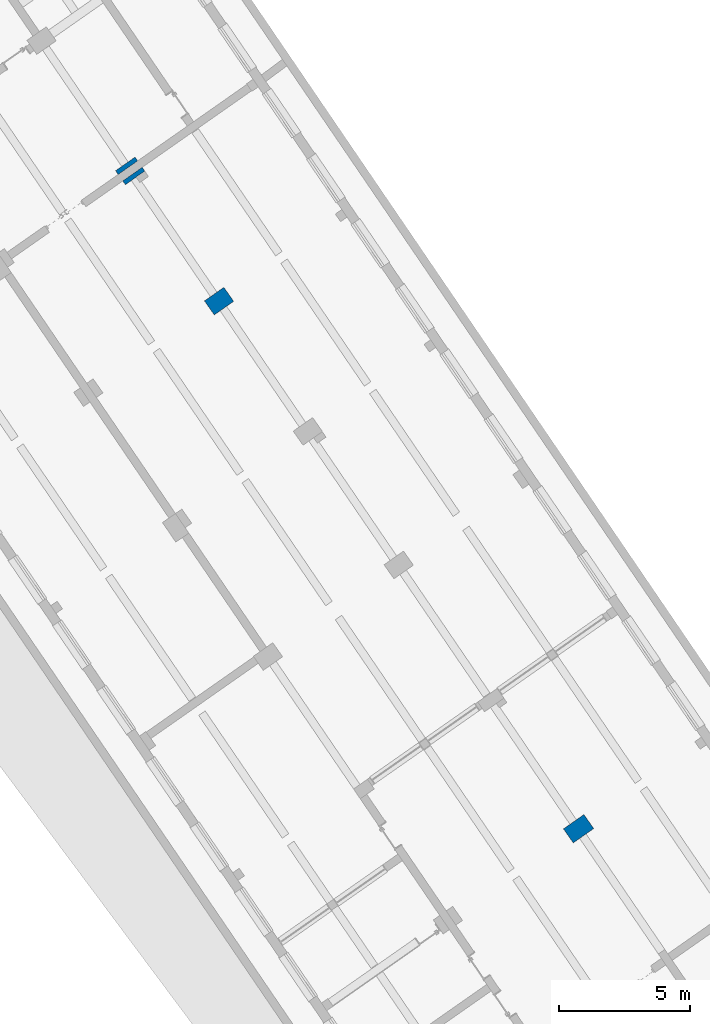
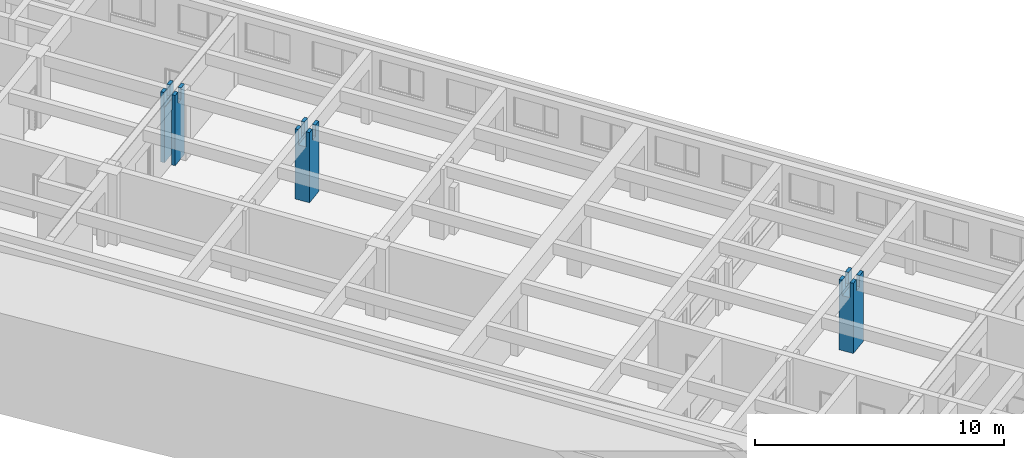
# One storey, part 87 of 112: 3 columns.
"""IFC2X3 building model written with IfcOpenShell, lengths in millimetres."""

from ifc_helpers import new_model, entity, si_unit, converted_unit, derived_unit, direction, frame, origin, place, context, subcontext, project, spatial, faceted_brep, source, transform, mapped, material, type_object, type_shapes, element, save


model = new_model("IFC2X3")

# Units and contexts
model_context = context("Model", 3, precision=0.01, world=origin(), true_north=direction((6.123031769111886e-17, 1.0)))
body_context = subcontext(model_context, "Body", "Model", "MODEL_VIEW")
ifc_project = project(units=[si_unit("LENGTHUNIT", "METRE", prefix="MILLI"), si_unit("AREAUNIT", "SQUARE_METRE"), si_unit("VOLUMEUNIT", "CUBIC_METRE"), converted_unit("PLANEANGLEUNIT", "DEGREE", entity("IfcRatioMeasure", 0.017453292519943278), si_unit("PLANEANGLEUNIT", "RADIAN"), dimensions=[0, 0, 0, 0, 0, 0, 0]), si_unit("MASSUNIT", "GRAM", prefix="KILO"), derived_unit("MASSDENSITYUNIT", [(si_unit("MASSUNIT", "GRAM", prefix="KILO"), 1), (si_unit("LENGTHUNIT", "METRE"), -3)]), derived_unit("MOMENTOFINERTIAUNIT", [(si_unit("LENGTHUNIT", "METRE"), 4)]), si_unit("TIMEUNIT", "SECOND"), si_unit("FREQUENCYUNIT", "HERTZ"), si_unit("THERMODYNAMICTEMPERATUREUNIT", "DEGREE_CELSIUS"), derived_unit("THERMALTRANSMITTANCEUNIT", [(si_unit("MASSUNIT", "GRAM", prefix="KILO"), 1), (si_unit("THERMODYNAMICTEMPERATUREUNIT", "KELVIN"), -1), (si_unit("TIMEUNIT", "SECOND"), -3)]), derived_unit("THERMALCONDUCTANCEUNIT", [(si_unit("MASSUNIT", "GRAM", prefix="KILO"), 1), (si_unit("LENGTHUNIT", "METRE"), 1), (si_unit("THERMODYNAMICTEMPERATUREUNIT", "KELVIN"), -1), (si_unit("TIMEUNIT", "SECOND"), -3)]), derived_unit("VOLUMETRICFLOWRATEUNIT", [(si_unit("LENGTHUNIT", "METRE"), 3), (si_unit("TIMEUNIT", "SECOND"), -1)]), derived_unit("MASSFLOWRATEUNIT", [(si_unit("MASSUNIT", "GRAM", prefix="KILO"), 1), (si_unit("TIMEUNIT", "SECOND"), -1)]), derived_unit("ROTATIONALFREQUENCYUNIT", [(si_unit("TIMEUNIT", "SECOND"), -1)]), si_unit("ELECTRICCURRENTUNIT", "AMPERE"), si_unit("ELECTRICVOLTAGEUNIT", "VOLT"), si_unit("POWERUNIT", "WATT"), converted_unit("FORCEUNIT", "KIP", entity("IfcRatioMeasure", 2.088543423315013e-05), si_unit("FORCEUNIT", "NEWTON"), dimensions=[1, 1, -2, 0, 0, 0, 0]), si_unit("ILLUMINANCEUNIT", "LUX"), si_unit("LUMINOUSFLUXUNIT", "LUMEN"), si_unit("LUMINOUSINTENSITYUNIT", "CANDELA"), derived_unit("USERDEFINED", [(si_unit("MASSUNIT", "GRAM", prefix="KILO"), -1), (si_unit("LENGTHUNIT", "METRE"), -2), (si_unit("TIMEUNIT", "SECOND"), 3), (si_unit("LUMINOUSFLUXUNIT", "LUMEN"), 1)]), derived_unit("USERDEFINED", [(si_unit("MASSUNIT", "GRAM", prefix="KILO"), 1), (si_unit("LENGTHUNIT", "METRE"), 3), (si_unit("TIMEUNIT", "SECOND"), -3), (si_unit("ELECTRICCURRENTUNIT", "AMPERE"), -2)]), derived_unit("USERDEFINED", [(si_unit("LENGTHUNIT", "METRE"), 2), (si_unit("TIMEUNIT", "SECOND"), -2)]), derived_unit("SOUNDPOWERUNIT", [(si_unit("MASSUNIT", "GRAM", prefix="KILO"), 1), (si_unit("LENGTHUNIT", "METRE"), 2), (si_unit("TIMEUNIT", "SECOND"), -3)]), derived_unit("SOUNDPRESSUREUNIT", [(si_unit("MASSUNIT", "GRAM", prefix="KILO"), 1), (si_unit("LENGTHUNIT", "METRE"), -1), (si_unit("TIMEUNIT", "SECOND"), -2)]), derived_unit("LINEARVELOCITYUNIT", [(si_unit("LENGTHUNIT", "METRE"), 1), (si_unit("TIMEUNIT", "SECOND"), -1)]), si_unit("PRESSUREUNIT", "PASCAL"), derived_unit("USERDEFINED", [(si_unit("LENGTHUNIT", "METRE"), -2), (si_unit("MASSUNIT", "GRAM", prefix="KILO"), 1), (si_unit("TIMEUNIT", "SECOND"), -2)]), derived_unit("LINEARFORCEUNIT", [(si_unit("MASSUNIT", "GRAM", prefix="KILO"), 1), (si_unit("LENGTHUNIT", "METRE"), 1), (si_unit("TIMEUNIT", "SECOND"), -2), (si_unit("LENGTHUNIT", "METRE"), -1)]), derived_unit("PLANARFORCEUNIT", [(si_unit("MASSUNIT", "GRAM", prefix="KILO"), 1), (si_unit("LENGTHUNIT", "METRE"), 1), (si_unit("TIMEUNIT", "SECOND"), -2), (si_unit("LENGTHUNIT", "METRE"), -2)]), derived_unit("SPECIFICHEATCAPACITYUNIT", [(si_unit("LENGTHUNIT", "METRE"), 2), (si_unit("TIMEUNIT", "SECOND"), -2), (si_unit("THERMODYNAMICTEMPERATUREUNIT", "KELVIN"), -1)]), derived_unit("VAPORPERMEABILITYUNIT", [(si_unit("TIMEUNIT", "SECOND"), 1), (si_unit("LENGTHUNIT", "METRE"), -1)]), derived_unit("DYNAMICVISCOSITYUNIT", [(si_unit("MASSUNIT", "GRAM", prefix="KILO"), 1), (si_unit("LENGTHUNIT", "METRE"), -1), (si_unit("TIMEUNIT", "SECOND"), -1)]), derived_unit("THERMALEXPANSIONCOEFFICIENTUNIT", [(si_unit("THERMODYNAMICTEMPERATUREUNIT", "KELVIN"), -1)])], contexts=[model_context])

# Site, building, storey
site_placement = place(None, frame((0.0, 0.0, 0.0), z_axis=(0.0, 0.0, 1.0), x_axis=(0.8191520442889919, 0.5735764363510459, 0.0)))
site = spatial("IfcSite", under=ifc_project, at=site_placement, Name="Default", CompositionType="ELEMENT")
building_placement = place(site_placement, origin())
building = spatial("IfcBuilding", under=site, at=building_placement, CompositionType="ELEMENT")
storey_placement = place(building_placement, frame((0.0, 0.0, -3600.0)))
storey = spatial("IfcBuildingStorey", under=building, at=storey_placement, Name="0.UG -3.60", CompositionType="ELEMENT", Elevation=-3600.0000000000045)

# Columns
ifc_material = material(Name="Analytical Wall Surface_CJC")
column_type_1 = type_object("IfcColumnType", Name="Columns_Rectangular:95x65", PredefinedType="COLUMN", material=ifc_material)
shared_shape_1 = source(origin(), body_context, "Body", "Brep", [
    faceted_brep([(0.0, 650.0, 3450.0), (0.0, 500.0, 3450.0), (302.2258325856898, 500.0, 3450.0), (304.13542545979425, 650.0, 3450.0), (0.0, 650.0, 0.0), (950.0, 650.0, 0.0), (950.0, 0.0, 0.0), (0.0, 0.0, 0.0), (0.0, 0.0, 3450.0), (0.0, 150.0, 3450.0), (0.0, 150.0, 2700.0), (0.0, 500.0, 2700.0), (950.0, 0.0, 3450.0), (595.8848323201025, 0.0, 3450.0), (595.8848323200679, 0.0, 2900.0), (295.86052300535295, 0.0, 2900.0), (295.86052300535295, 0.0, 3450.0), (950.0, 650.0, 3450.0), (950.0, 500.0, 3450.0), (950.0, 500.0, 2700.0), (950.0, 150.0, 2700.0), (950.0, 150.0, 3450.0), (304.13542545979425, 650.0, 2900.0), (604.1597347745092, 650.0, 2900.0), (604.1597347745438, 650.0, 3450.0), (602.2501419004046, 500.0, 3450.0), (602.2501419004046, 500.0, 2900.0), (302.2258325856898, 500.0, 2900.0), (297.7701158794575, 150.0, 3450.0), (297.7701158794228, 150.0, 2900.0), (597.7944251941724, 150.0, 2900.0), (597.7944251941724, 150.0, 3450.0)], [[[0, 1, 2, 3]], [[4, 5, 6, 7]], [[4, 7, 8, 9, 10, 11, 1, 0]], [[7, 6, 12, 13, 14, 15, 16, 8]], [[6, 5, 17, 18, 19, 20, 21, 12]], [[5, 4, 0, 3, 22, 23, 24, 17]], [[1, 11, 19, 18, 25, 26, 27, 2]], [[10, 9, 28, 29, 30, 31, 21, 20]], [[11, 10, 20, 19]], [[12, 21, 31, 13]], [[30, 14, 13, 31]], [[27, 22, 3, 2]], [[14, 30, 29, 15]], [[18, 17, 24, 25]], [[9, 8, 16, 28]], [[23, 26, 25, 24]], [[15, 29, 28, 16]], [[26, 23, 22, 27]]]),
])
type_shapes(column_type_1, [shared_shape_1])
column_1_placement = place(storey_placement, frame((-211244.53418967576, 127371.35891435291, 0.0)))
element("IfcColumn", 1, at=column_1_placement, inside=storey, type_object=column_type_1, material=ifc_material, Name="Columns_Rectangular:95x65", ObjectType="Columns_Rectangular:95x65", context=body_context, shape_type="MappedRepresentation", body=[
    mapped(shared_shape_1, transform((0.0, 0.0, 0.0), scale=1.0)),
])
column_type_2 = type_object("IfcColumnType", Name="Columns_Rectangular:90x65", PredefinedType="COLUMN", material=ifc_material)
shared_shape_2 = source(origin(), body_context, "Body", "Brep", [
    faceted_brep([(0.0, 650.0, 3450.0), (0.0, 500.0, 3450.0), (277.2258325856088, 500.0, 3450.0), (279.1354254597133, 650.0, 3450.0), (0.0, 650.0, 0.0), (900.0, 650.0, 0.0), (900.0, 0.0, 0.0), (0.0, 0.0, 0.0), (0.0, 0.0, 3450.0), (0.0, 150.0, 3450.0), (0.0, 150.0, 2700.0), (0.0, 500.0, 2700.0), (900.0, 0.0, 3450.0), (570.8848323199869, 0.0, 3450.0), (570.8848323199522, 0.0, 2900.0), (270.860523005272, 0.0, 2900.0), (270.8605230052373, 0.0, 3450.0), (900.0, 650.0, 3450.0), (900.0, 500.0, 3450.0), (900.0, 500.0, 2700.0), (900.0, 150.0, 2700.0), (900.0, 150.0, 3450.0), (279.1354254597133, 650.0, 2900.0), (579.1597347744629, 650.0, 2900.0), (579.1597347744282, 650.0, 3450.0), (577.2501419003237, 500.0, 3450.0), (577.2501419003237, 500.0, 2900.0), (277.2258325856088, 500.0, 2900.0), (272.77011587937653, 150.0, 3450.0), (272.77011587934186, 150.0, 2900.0), (572.7944251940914, 150.0, 2900.0), (572.7944251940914, 150.0, 3450.0)], [[[0, 1, 2, 3]], [[4, 5, 6, 7]], [[4, 7, 8, 9, 10, 11, 1, 0]], [[7, 6, 12, 13, 14, 15, 16, 8]], [[6, 5, 17, 18, 19, 20, 21, 12]], [[5, 4, 0, 3, 22, 23, 24, 17]], [[11, 19, 18, 25, 26, 27, 2, 1]], [[20, 10, 9, 28, 29, 30, 31, 21]], [[19, 11, 10, 20]], [[12, 21, 31, 13]], [[30, 14, 13, 31]], [[27, 22, 3, 2]], [[14, 30, 29, 15]], [[18, 17, 24, 25]], [[9, 8, 16, 28]], [[23, 26, 25, 24]], [[15, 29, 28, 16]], [[26, 23, 22, 27]]]),
])
type_shapes(column_type_2, [shared_shape_2])
column_2_placement = place(storey_placement, frame((-210910.18014407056, 151671.35891435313, 0.0)))
element("IfcColumn", 2, at=column_2_placement, inside=storey, type_object=column_type_2, material=ifc_material, Name="Columns_Rectangular:90x65", ObjectType="Columns_Rectangular:90x65", context=body_context, shape_type="MappedRepresentation", body=[
    mapped(shared_shape_2, transform((0.0, 0.0, 0.0), scale=1.0)),
])
column_type_3 = type_object("IfcColumnType", Name="Columns_Rectangular:90x65", PredefinedType="COLUMN", material=ifc_material)
shared_shape_3 = source(origin(), body_context, "Body", "Brep", [
    faceted_brep([(0.0, 650.0, 3450.0), (0.0, 500.0, 3450.0), (282.22583258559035, 500.0, 3450.0), (284.1354254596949, 650.0, 3450.0), (0.0, 650.0, 0.0), (0.0, 475.0, 0.0), (0.0, 475.0, 2700.0), (0.0, 500.0, 2700.0), (900.0, 650.0, 0.0), (284.1354254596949, 650.0, 2900.0), (584.1597347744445, 650.0, 2900.0), (584.1597347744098, 650.0, 3450.0), (900.0, 650.0, 3450.0), (900.0, 475.0, 0.0), (900.0, 475.0, 2700.0), (900.0, 500.0, 3450.0), (900.0, 500.0, 2700.0), (582.2501419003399, 500.0, 3450.0), (582.2501419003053, 500.0, 2900.0), (282.22583258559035, 500.0, 2900.0)], [[[0, 1, 2, 3]], [[0, 4, 5, 6, 7, 1]], [[8, 4, 0, 3, 9, 10, 11, 12]], [[5, 13, 14, 6]], [[4, 8, 13, 5]], [[8, 12, 15, 16, 14, 13]], [[1, 7, 16, 15, 17, 18, 19, 2]], [[19, 9, 3, 2]], [[15, 12, 11, 17]], [[10, 18, 17, 11]], [[18, 10, 9, 19]], [[16, 7, 6, 14]]]),
    faceted_brep([(900.0, 175.0, 0.0), (900.0, 0.0, 0.0), (500.0562544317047, 6.708232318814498, 0.0), (499.9437376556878, 0.0, 0.0), (0.0, 0.0, 0.0), (0.0, 175.0, 0.0), (0.0, 0.0, 3450.0), (499.9437376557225, 0.0, 2900.0), (275.8605230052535, 0.0, 2900.0), (275.8605230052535, 0.0, 3450.0), (900.0, 175.0, 2700.0), (900.0, 150.0, 2700.0), (900.0, 150.0, 3450.0), (900.0, 0.0, 3450.0), (0.0, 175.0, 2700.0), (0.0, 150.0, 3450.0), (277.77011587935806, 150.0, 3450.0), (0.0, 150.0, 2700.0), (500.0562544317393, 6.708232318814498, 2900.0), (575.9540258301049, 5.435203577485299, 3450.0), (575.9540258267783, 5.435203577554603, 2900.0), (277.7701158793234, 150.0, 2900.0), (577.7944251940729, 150.0, 2900.0), (577.7944251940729, 150.0, 3450.0)], [[[0, 1, 2, 3, 4, 5]], [[6, 4, 3, 7, 8, 9]], [[1, 0, 10, 11, 12, 13]], [[0, 5, 14, 10]], [[15, 6, 9, 16]], [[4, 6, 15, 17, 14, 5]], [[3, 2, 18, 7]], [[2, 1, 13, 19, 20, 18]], [[12, 11, 17, 15, 16, 21, 22, 23]], [[22, 20, 19, 23]], [[20, 22, 21, 8, 7, 18]], [[13, 12, 23, 19]], [[8, 21, 16, 9]], [[17, 11, 10, 14]]]),
])
type_shapes(column_type_3, [shared_shape_3])
column_3_placement = place(storey_placement, frame((-210838.79642910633, 157671.3589143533, 0.0)))
element("IfcColumn", 3, at=column_3_placement, inside=storey, type_object=column_type_3, material=ifc_material, Name="Columns_Rectangular:90x65", ObjectType="Columns_Rectangular:90x65", context=body_context, shape_type="MappedRepresentation", body=[
    mapped(shared_shape_3, transform((0.0, 0.0, 0.0), scale=1.0)),
])

save(model, "model.ifc")
